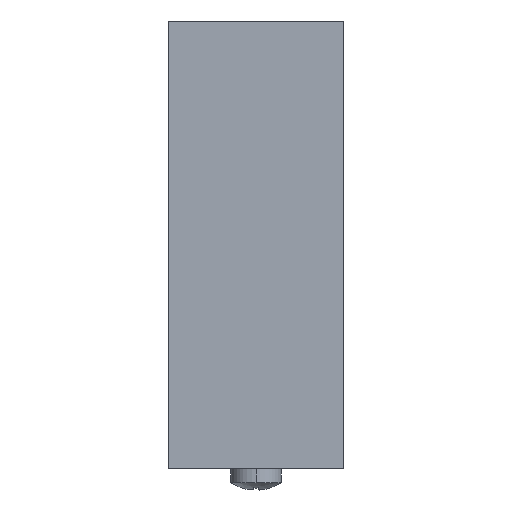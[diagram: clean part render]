
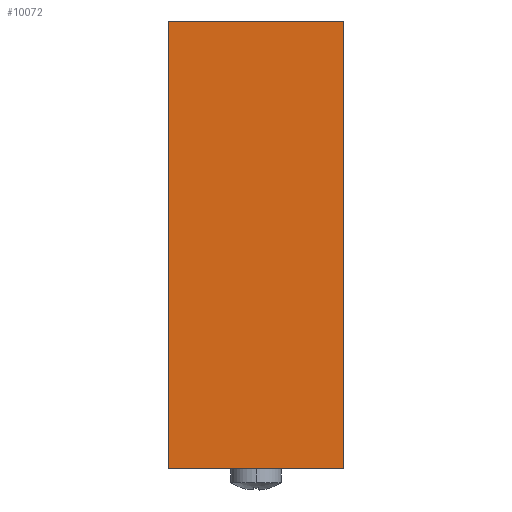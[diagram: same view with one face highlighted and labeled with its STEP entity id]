
A CAD part, left-side view. The second image highlights one B-rep face of the part: STEP entity #10072.
In plain terms, the highlighted planar face has unit normal (-1, 0, 0).
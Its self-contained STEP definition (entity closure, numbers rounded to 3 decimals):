
#9635=DIRECTION('',(0.,0.,-1.));
#9636=VECTOR('',#9635,49.5);
#9637=CARTESIAN_POINT('',(-24.75,0.,24.75));
#9638=LINE('',#9637,#9636);
#9667=DIRECTION('',(0.,1.,0.));
#9668=VECTOR('',#9667,19.5);
#9669=CARTESIAN_POINT('',(-24.75,0.,-24.75));
#9670=LINE('',#9669,#9668);
#9681=DIRECTION('',(0.,0.,-1.));
#9682=VECTOR('',#9681,49.5);
#9683=CARTESIAN_POINT('',(-24.75,19.5,24.75));
#9684=LINE('',#9683,#9682);
#9685=DIRECTION('',(0.,1.,0.));
#9686=VECTOR('',#9685,19.5);
#9687=CARTESIAN_POINT('',(-24.75,0.,24.75));
#9688=LINE('',#9687,#9686);
#9839=CARTESIAN_POINT('',(-24.75,19.5,24.75));
#9840=CARTESIAN_POINT('',(-24.75,19.5,-24.75));
#9841=VERTEX_POINT('',#9839);
#9842=VERTEX_POINT('',#9840);
#9847=CARTESIAN_POINT('',(-24.75,0.,24.75));
#9848=VERTEX_POINT('',#9847);
#9863=CARTESIAN_POINT('',(-24.75,0.,-24.75));
#9864=VERTEX_POINT('',#9863);
#10060=CARTESIAN_POINT('',(-24.75,19.5,-24.75));
#10061=DIRECTION('',(1.,0.,0.));
#10062=DIRECTION('',(0.,0.,-1.));
#10063=AXIS2_PLACEMENT_3D('',#10060,#10061,#10062);
#10064=PLANE('',#10063);
#10065=ORIENTED_EDGE('',*,*,#10024,.T.);
#10066=ORIENTED_EDGE('',*,*,#10049,.T.);
#10067=ORIENTED_EDGE('',*,*,#9956,.F.);
#10069=ORIENTED_EDGE('',*,*,#10068,.F.);
#10070=EDGE_LOOP('',(#10065,#10066,#10067,#10069));
#10071=FACE_OUTER_BOUND('',#10070,.F.);
#10072=ADVANCED_FACE('',(#10071),#10064,.F.);
#9956=EDGE_CURVE('',#9841,#9842,#9684,.T.);
#10024=EDGE_CURVE('',#9848,#9864,#9638,.T.);
#10049=EDGE_CURVE('',#9864,#9842,#9670,.T.);
#10068=EDGE_CURVE('',#9848,#9841,#9688,.T.);
